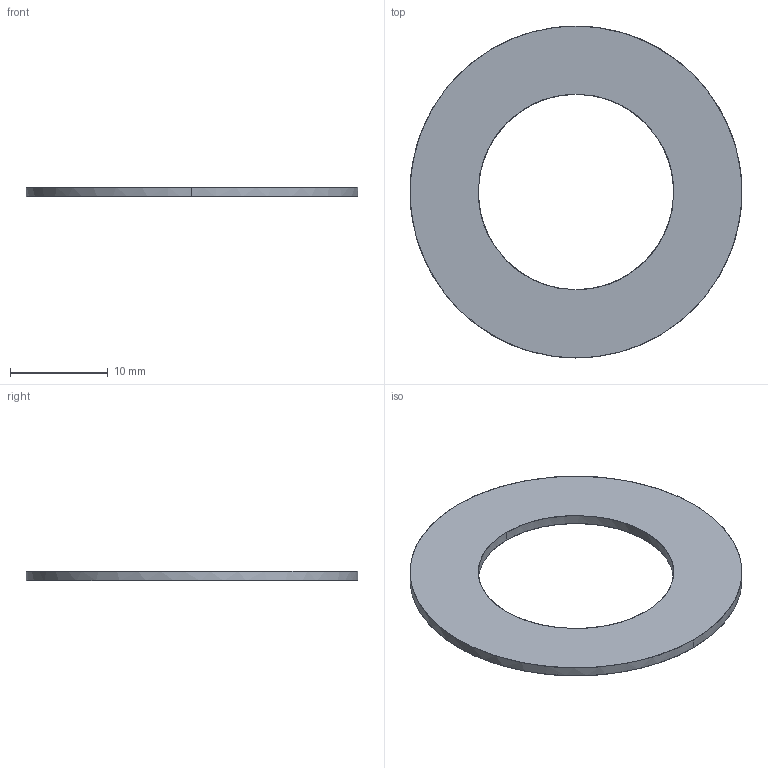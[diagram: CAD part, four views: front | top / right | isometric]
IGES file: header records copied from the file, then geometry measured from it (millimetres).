
Global section: file name: E:\UnigraphicsGraphicData\MISUMI_PRESS-PARTS\IGES\3d_sswa34-1.0_00817_r00.igs; native system: NX V5.0; preprocessor: UGS NX IGES V5.0; author: MISUMI; date: 20110105.163200; units: millimetre
Bounding box: 34 x 34 x 1 mm (x, y, z)
Surface area: 1355.5 mm2 (no closed solid volume)
Topology: 0 solids, 0 shells, 6 faces, 64 edges, 64 vertices
Faces by surface type: bspline 6
